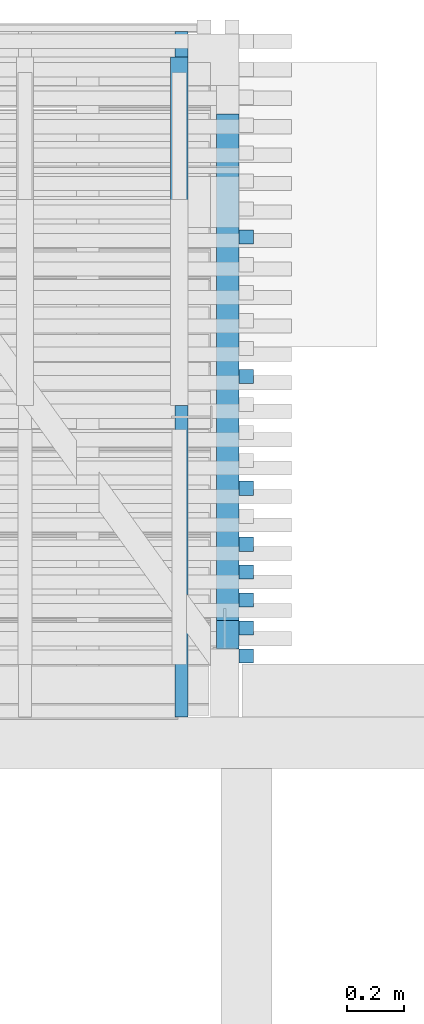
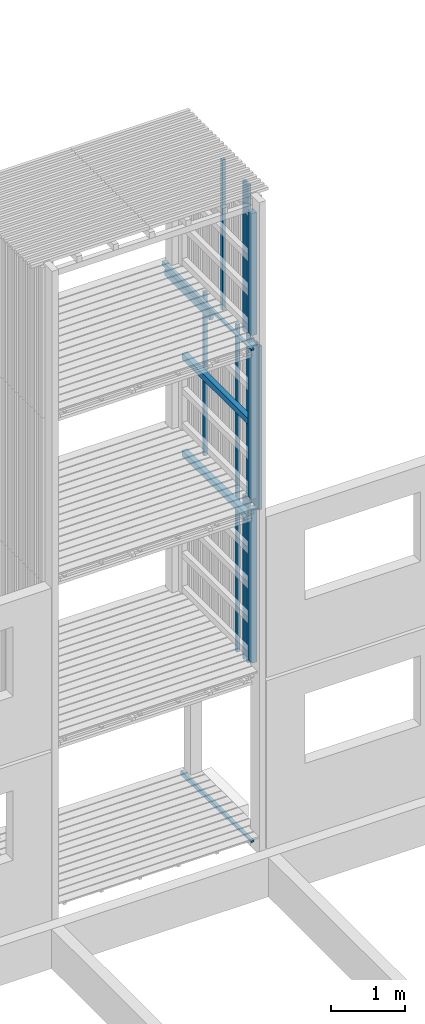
# One storey, part 53 of 182: 20 beams.
"""IFC2X3 building model written with IfcOpenShell, lengths in metres."""

from ifc_helpers import new_model, si_unit, frame, origin, place, context, project, spatial, faceted_brep, element, save


model = new_model("IFC2X3")

# Units and contexts
model_context = context("Model", 3, precision=1e-06, world=origin())
ifc_project = project(units=[si_unit("LENGTHUNIT", "METRE"), si_unit("PLANEANGLEUNIT", "RADIAN")], contexts=[model_context])

# Site, building, storey
site = spatial("IfcSite", under=ifc_project, CompositionType="ELEMENT")
building = spatial("IfcBuilding", under=site, CompositionType="ELEMENT")
storey = spatial("IfcBuildingStorey", under=building, Name="vs", CompositionType="ELEMENT", Elevation=-0.85)

# Beams
placement = place(None, origin())
beam_1_placement = place(placement, frame((16.451697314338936, 10.4700776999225, 8.084400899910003), z_axis=(0.0, 0.0, 1.0), x_axis=(0.0, 1.0, 0.0)))
element("IfcBeam", 1, at=beam_1_placement, inside=storey, Name="Calage", context=model_context, shape_type="Brep", body=[
    faceted_brep([(2.410000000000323, -0.022499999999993, -0.035599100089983), (0.0, -0.022499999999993, 0.012600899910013), (0.0, 0.022500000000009, 0.012600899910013), (2.410000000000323, 0.022500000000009, -0.035599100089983), (0.0, 0.022500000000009, 0.035599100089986), (0.0, 0.022500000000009, 0.012600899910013), (0.0, -0.022499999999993, 0.012600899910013), (0.0, -0.022499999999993, 0.035599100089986), (2.410000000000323, 0.022500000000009, -0.035599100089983), (0.0, 0.022500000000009, 0.012600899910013), (0.0, 0.022500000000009, 0.035599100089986), (2.410000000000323, 0.022500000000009, 0.035599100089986), (2.410000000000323, -0.022499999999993, 0.035599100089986), (0.0, -0.022499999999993, 0.035599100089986), (0.0, -0.022499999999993, 0.012600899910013), (2.410000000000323, -0.022499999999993, -0.035599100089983), (2.410000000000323, 0.022500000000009, 0.035599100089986), (0.0, 0.022500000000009, 0.035599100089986), (0.0, -0.022499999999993, 0.035599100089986), (2.410000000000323, -0.022499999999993, 0.035599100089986), (2.410000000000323, 0.022500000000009, -0.035599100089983), (2.410000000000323, 0.022500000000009, 0.035599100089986), (2.410000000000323, -0.022499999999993, 0.035599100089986), (2.410000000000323, -0.022499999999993, -0.035599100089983)], [[[0, 1, 2, 3]], [[4, 5, 6, 7]], [[8, 9, 10, 11]], [[12, 13, 14, 15]], [[16, 17, 18, 19]], [[20, 21, 22, 23]]]),
])
beam_2_placement = place(placement, frame((16.614197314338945, 10.810077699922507, 6.672499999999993), z_axis=(0.0, 0.0, 1.0), x_axis=(0.0, 1.0, 0.0)))
element("IfcBeam", 2, at=beam_2_placement, inside=storey, Name="Support bardage", context=model_context, shape_type="Brep", body=[
    faceted_brep([(1.779999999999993, -0.039999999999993, 0.050000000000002), (1.779999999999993, -0.039999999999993, -0.05), (1.779999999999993, 0.04000000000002, -0.05), (1.779999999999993, 0.04000000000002, 0.050000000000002), (-4e-15, -0.039999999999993, -0.05), (1.779999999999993, -0.039999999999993, -0.05), (1.779999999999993, -0.039999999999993, 0.050000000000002), (-4e-15, -0.039999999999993, 0.050000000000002), (-4e-15, 0.04000000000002, -0.05), (1.779999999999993, 0.04000000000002, -0.05), (1.779999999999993, -0.039999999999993, -0.05), (-4e-15, -0.039999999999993, -0.05), (-4e-15, 0.04000000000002, 0.050000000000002), (1.779999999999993, 0.04000000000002, 0.050000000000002), (1.779999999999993, 0.04000000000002, -0.05), (-4e-15, 0.04000000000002, -0.05), (-4e-15, -0.039999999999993, 0.050000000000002), (1.779999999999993, -0.039999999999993, 0.050000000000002), (1.779999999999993, 0.04000000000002, 0.050000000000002), (-4e-15, 0.04000000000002, 0.050000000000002), (-4e-15, -0.039999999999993, -0.05), (-4e-15, -0.039999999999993, 0.050000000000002), (-4e-15, 0.04000000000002, 0.050000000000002), (-4e-15, 0.04000000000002, -0.05)], [[[0, 1, 2, 3]], [[4, 5, 6, 7]], [[8, 9, 10, 11]], [[12, 13, 14, 15]], [[16, 17, 18, 19]], [[20, 21, 22, 23]]]),
])
beam_3_placement = place(placement, frame((16.67919731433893, 11.666895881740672, 7.974999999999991), z_axis=(-1.0, 0.0, 0.0), x_axis=(0.0, 0.0, 1.0)))
element("IfcBeam", 3, at=beam_3_placement, inside=storey, Name="Bardage", context=model_context, shape_type="Brep", body=[
    faceted_brep([(2.479999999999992, -0.025000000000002, 0.024999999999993), (2.479999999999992, -0.025000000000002, -0.025000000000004), (2.479999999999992, 0.024999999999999, -0.025000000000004), (2.479999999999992, 0.024999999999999, 0.024999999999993), (0.0, 0.024999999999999, 0.024999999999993), (0.0, -0.025000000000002, 0.024999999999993), (2.479999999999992, -0.025000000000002, 0.024999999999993), (2.479999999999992, 0.024999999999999, 0.024999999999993), (0.0, -0.025000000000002, 0.024999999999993), (0.0, 0.024999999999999, 0.024999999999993), (0.0, 0.024999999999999, -0.025000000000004), (0.0, -0.025000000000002, -0.025000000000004), (0.0, 0.024999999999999, -0.025000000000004), (0.0, 0.024999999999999, 0.024999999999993), (2.479999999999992, 0.024999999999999, 0.024999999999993), (2.479999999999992, 0.024999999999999, -0.025000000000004), (0.0, -0.025000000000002, -0.025000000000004), (0.0, 0.024999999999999, -0.025000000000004), (2.479999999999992, 0.024999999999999, -0.025000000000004), (2.479999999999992, -0.025000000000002, -0.025000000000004), (2.479999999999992, -0.025000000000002, 0.024999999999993), (0.0, -0.025000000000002, 0.024999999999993), (0.0, -0.025000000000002, -0.025000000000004), (2.479999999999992, -0.025000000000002, -0.025000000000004)], [[[0, 1, 2, 3]], [[4, 5, 6, 7]], [[8, 9, 10, 11]], [[12, 13, 14, 15]], [[16, 17, 18, 19]], [[20, 21, 22, 23]]]),
])
beam_4_placement = place(placement, frame((16.444197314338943, 11.565077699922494, 8.00424999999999), z_axis=(0.0, 0.0, 1.0), x_axis=(-1.2e-14, 1.0, 0.0)))
element("IfcBeam", 4, at=beam_4_placement, inside=storey, Name="Solive", context=model_context, shape_type="Brep", body=[
    faceted_brep([(-1e-15, -0.029999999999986, 0.061850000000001), (-1e-15, -0.029999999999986, -0.061849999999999), (1.225000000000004, -0.03, -0.061849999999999), (1.225000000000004, -0.03, 0.037349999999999), (-1e-15, -0.029999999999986, -0.061849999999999), (-1e-15, -0.029999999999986, 0.061850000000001), (0.0, 0.030000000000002, 0.061849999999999), (0.0, 0.030000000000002, -0.061849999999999), (1.225000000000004, -0.03, -0.061849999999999), (-1e-15, -0.029999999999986, -0.061849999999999), (0.0, 0.030000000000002, -0.061849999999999), (1.225000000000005, 0.029999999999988, -0.061849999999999), (1.225000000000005, 0.029999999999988, 0.037349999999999), (1.225000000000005, 0.029999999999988, -0.061849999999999), (0.0, 0.030000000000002, -0.061849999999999), (0.0, 0.030000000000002, 0.061849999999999), (1.225000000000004, -0.03, 0.037349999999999), (1.225000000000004, -0.03, -0.061849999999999), (1.225000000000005, 0.029999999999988, -0.061849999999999), (1.225000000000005, 0.029999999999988, 0.037349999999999), (1.225000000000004, -0.03, 0.037349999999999), (1.225000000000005, 0.029999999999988, 0.037349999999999), (0.0, 0.030000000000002, 0.061849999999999), (-1e-15, -0.029999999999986, 0.061850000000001)], [[[0, 1, 2, 3]], [[4, 5, 6, 7]], [[8, 9, 10, 11]], [[12, 13, 14, 15]], [[16, 17, 18, 19]], [[20, 21, 22, 23]]]),
])
beam_5_placement = place(placement, frame((16.67919731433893, 12.157804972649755, 5.274999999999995), z_axis=(-1.0, 0.0, 0.0), x_axis=(0.0, 0.0, 1.0)))
element("IfcBeam", 5, at=beam_5_placement, inside=storey, Name="Bardage", context=model_context, shape_type="Brep", body=[
    faceted_brep([(1e-15, -0.024999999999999, 0.024999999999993), (1e-15, 0.024999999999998, 0.024999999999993), (1e-15, 0.024999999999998, -0.025000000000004), (1e-15, -0.024999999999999, -0.025000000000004), (2.699999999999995, -0.024999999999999, -0.025000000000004), (2.699999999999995, 0.025000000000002, -0.025000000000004), (2.699999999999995, 0.025000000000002, 0.024999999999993), (2.699999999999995, -0.024999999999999, 0.024999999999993), (1e-15, -0.024999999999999, 0.024999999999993), (1e-15, -0.024999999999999, -0.025000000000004), (2.699999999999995, -0.024999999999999, -0.025000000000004), (2.699999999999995, -0.024999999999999, 0.024999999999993), (2.699999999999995, -0.024999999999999, -0.025000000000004), (1e-15, -0.024999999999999, -0.025000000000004), (1e-15, 0.024999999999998, -0.025000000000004), (2.699999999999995, 0.025000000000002, -0.025000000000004), (2.699999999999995, 0.025000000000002, -0.025000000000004), (1e-15, 0.024999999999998, -0.025000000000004), (1e-15, 0.024999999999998, 0.024999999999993), (2.699999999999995, 0.025000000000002, 0.024999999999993), (2.699999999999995, 0.025000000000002, 0.024999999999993), (1e-15, 0.024999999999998, 0.024999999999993), (1e-15, -0.024999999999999, 0.024999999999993), (2.699999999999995, -0.024999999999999, 0.024999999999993)], [[[0, 1, 2, 3]], [[4, 5, 6, 7]], [[8, 9, 10, 11]], [[12, 13, 14, 15]], [[16, 17, 18, 19]], [[20, 21, 22, 23]]]),
])
beam_6_placement = place(placement, frame((16.614197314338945, 10.810077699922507, 5.074999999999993), z_axis=(0.0, 0.0, 1.0), x_axis=(0.0, 1.0, 0.0)))
element("IfcBeam", 6, at=beam_6_placement, inside=storey, Name="Support bardage", context=model_context, shape_type="Brep", body=[
    faceted_brep([(1.779999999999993, -0.039999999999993, 0.050000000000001), (1.779999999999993, -0.039999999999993, -0.050000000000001), (1.779999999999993, 0.04000000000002, -0.050000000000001), (1.779999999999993, 0.04000000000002, 0.050000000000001), (-4e-15, -0.039999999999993, -0.050000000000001), (1.779999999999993, -0.039999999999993, -0.050000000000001), (1.779999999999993, -0.039999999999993, 0.050000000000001), (-4e-15, -0.039999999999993, 0.050000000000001), (-4e-15, 0.04000000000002, -0.050000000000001), (1.779999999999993, 0.04000000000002, -0.050000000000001), (1.779999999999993, -0.039999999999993, -0.050000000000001), (-4e-15, -0.039999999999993, -0.050000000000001), (-4e-15, 0.04000000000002, 0.050000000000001), (1.779999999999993, 0.04000000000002, 0.050000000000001), (1.779999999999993, 0.04000000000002, -0.050000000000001), (-4e-15, 0.04000000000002, -0.050000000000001), (-4e-15, -0.039999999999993, 0.050000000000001), (1.779999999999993, -0.039999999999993, 0.050000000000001), (1.779999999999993, 0.04000000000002, 0.050000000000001), (-4e-15, 0.04000000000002, 0.050000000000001), (-4e-15, -0.039999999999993, -0.050000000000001), (-4e-15, -0.039999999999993, 0.050000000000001), (-4e-15, 0.04000000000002, 0.050000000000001), (-4e-15, 0.04000000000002, -0.050000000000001)], [[[0, 1, 2, 3]], [[4, 5, 6, 7]], [[8, 9, 10, 11]], [[12, 13, 14, 15]], [[16, 17, 18, 19]], [[20, 21, 22, 23]]]),
])
beam_7_placement = place(placement, frame((16.614197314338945, 10.760077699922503, 5.446999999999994), z_axis=(0.0, 1.0, 0.0), x_axis=(0.0, 0.0, 1.0)))
element("IfcBeam", 7, at=beam_7_placement, inside=storey, Name="Support bardage", context=model_context, shape_type="Brep", body=[
    faceted_brep([(2.527999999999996, -0.04000000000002, -0.050000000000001), (2.527999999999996, 0.039999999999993, -0.050000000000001), (2.527999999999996, 0.039999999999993, 0.05), (2.527999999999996, -0.04000000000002, 0.05), (-1e-15, -0.04000000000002, 0.05), (-1e-15, -0.04000000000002, -0.050000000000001), (2.527999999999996, -0.04000000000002, -0.050000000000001), (2.527999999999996, -0.04000000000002, 0.05), (-1e-15, -0.04000000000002, -0.050000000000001), (-1e-15, -0.04000000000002, 0.05), (-1e-15, 0.039999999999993, 0.05), (-1e-15, 0.039999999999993, -0.050000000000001), (2.527999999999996, -0.04000000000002, -0.050000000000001), (-1e-15, -0.04000000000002, -0.050000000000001), (-1e-15, 0.039999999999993, -0.050000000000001), (2.527999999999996, 0.039999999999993, -0.050000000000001), (2.527999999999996, 0.039999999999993, -0.050000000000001), (-1e-15, 0.039999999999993, -0.050000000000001), (-1e-15, 0.039999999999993, 0.05), (2.527999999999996, 0.039999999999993, 0.05), (2.527999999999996, 0.039999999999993, 0.05), (-1e-15, 0.039999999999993, 0.05), (-1e-15, -0.04000000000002, 0.05), (2.527999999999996, -0.04000000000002, 0.05)], [[[0, 1, 2, 3]], [[4, 5, 6, 7]], [[8, 9, 10, 11]], [[12, 13, 14, 15]], [[16, 17, 18, 19]], [[20, 21, 22, 23]]]),
])
beam_8_placement = place(placement, frame((16.67919731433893, 11.274168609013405, 2.575000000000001), z_axis=(-1.0, 0.0, 0.0), x_axis=(0.0, 0.0, 1.0)))
element("IfcBeam", 8, at=beam_8_placement, inside=storey, Name="Bardage", context=model_context, shape_type="Brep", body=[
    faceted_brep([(0.0, -0.025000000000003, 0.024999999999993), (0.0, 0.024999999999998, 0.024999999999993), (0.0, 0.024999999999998, -0.025000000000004), (0.0, -0.025000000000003, -0.025000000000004), (2.699961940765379, 0.024999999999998, -0.025000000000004), (2.699961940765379, 0.024999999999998, 0.024999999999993), (2.699961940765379, -0.025000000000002, 0.024999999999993), (2.699961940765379, -0.025000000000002, -0.025000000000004), (0.0, -0.025000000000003, -0.025000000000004), (0.0, 0.024999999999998, -0.025000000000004), (2.699961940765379, 0.024999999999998, -0.025000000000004), (2.699961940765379, -0.025000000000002, -0.025000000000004), (2.699961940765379, 0.024999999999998, -0.025000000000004), (0.0, 0.024999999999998, -0.025000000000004), (0.0, 0.024999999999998, 0.024999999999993), (2.699961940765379, 0.024999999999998, 0.024999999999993), (2.699961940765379, 0.024999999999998, 0.024999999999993), (0.0, 0.024999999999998, 0.024999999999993), (0.0, -0.025000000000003, 0.024999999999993), (2.699961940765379, -0.025000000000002, 0.024999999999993), (2.699961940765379, -0.025000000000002, 0.024999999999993), (0.0, -0.025000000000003, 0.024999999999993), (0.0, -0.025000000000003, -0.025000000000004), (2.699961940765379, -0.025000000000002, -0.025000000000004)], [[[0, 1, 2, 3]], [[4, 5, 6, 7]], [[8, 9, 10, 11]], [[12, 13, 14, 15]], [[16, 17, 18, 19]], [[20, 21, 22, 23]]]),
])
beam_9_placement = place(placement, frame((16.67919731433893, 11.07780497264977, 7.974999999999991), z_axis=(-1.0, 0.0, 0.0), x_axis=(0.0, 0.0, 1.0)))
element("IfcBeam", 9, at=beam_9_placement, inside=storey, Name="Bardage", context=model_context, shape_type="Brep", body=[
    faceted_brep([(2.479999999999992, -0.024999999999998, 0.024999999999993), (2.479999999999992, -0.024999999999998, -0.025000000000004), (2.479999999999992, 0.024999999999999, -0.025000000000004), (2.479999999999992, 0.024999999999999, 0.024999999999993), (0.0, 0.024999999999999, 0.024999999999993), (0.0, -0.024999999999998, 0.024999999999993), (2.479999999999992, -0.024999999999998, 0.024999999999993), (2.479999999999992, 0.024999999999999, 0.024999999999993), (0.0, -0.024999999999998, 0.024999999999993), (0.0, 0.024999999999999, 0.024999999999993), (0.0, 0.024999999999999, -0.025000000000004), (0.0, -0.024999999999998, -0.025000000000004), (0.0, 0.024999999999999, -0.025000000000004), (0.0, 0.024999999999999, 0.024999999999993), (2.479999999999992, 0.024999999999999, 0.024999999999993), (2.479999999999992, 0.024999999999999, -0.025000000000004), (0.0, -0.024999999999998, -0.025000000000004), (0.0, 0.024999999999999, -0.025000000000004), (2.479999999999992, 0.024999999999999, -0.025000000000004), (2.479999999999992, -0.024999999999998, -0.025000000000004), (2.479999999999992, -0.024999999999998, 0.024999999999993), (0.0, -0.024999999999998, 0.024999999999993), (0.0, -0.024999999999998, -0.025000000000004), (2.479999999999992, -0.024999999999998, -0.025000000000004)], [[[0, 1, 2, 3]], [[4, 5, 6, 7]], [[8, 9, 10, 11]], [[12, 13, 14, 15]], [[16, 17, 18, 19]], [[20, 21, 22, 23]]]),
])
beam_10_placement = place(placement, frame((16.451697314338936, 10.4700776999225, -0.015599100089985), z_axis=(0.0, 0.0, 1.0), x_axis=(0.0, 1.0, 0.0)))
element("IfcBeam", 10, at=beam_10_placement, inside=storey, Name="Calage", context=model_context, shape_type="Brep", body=[
    faceted_brep([(1.91000000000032, -0.022499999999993, -0.035599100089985), (0.0, -0.022499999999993, 0.002600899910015), (0.0, 0.022500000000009, 0.002600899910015), (1.91000000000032, 0.022500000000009, -0.035599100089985), (0.0, -0.022499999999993, 0.035599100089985), (0.0, 0.022500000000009, 0.035599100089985), (0.0, 0.022500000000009, 0.002600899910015), (0.0, -0.022499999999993, 0.002600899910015), (0.0, 0.022500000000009, 0.035599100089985), (0.0, -0.022499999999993, 0.035599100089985), (1.91000000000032, -0.022499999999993, 0.035599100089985), (1.91000000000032, 0.022500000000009, 0.035599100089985), (1.91000000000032, -0.022499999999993, 0.035599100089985), (0.0, -0.022499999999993, 0.035599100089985), (0.0, -0.022499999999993, 0.002600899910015), (1.91000000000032, -0.022499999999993, -0.035599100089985), (1.91000000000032, 0.022500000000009, 0.035599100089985), (1.91000000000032, -0.022499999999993, 0.035599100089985), (1.91000000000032, -0.022499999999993, -0.035599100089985), (1.91000000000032, 0.022500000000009, -0.035599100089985), (0.0, 0.022500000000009, 0.002600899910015), (0.0, 0.022500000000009, 0.035599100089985), (1.91000000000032, 0.022500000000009, 0.035599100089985), (1.91000000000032, 0.022500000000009, -0.035599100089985)], [[[0, 1, 2, 3]], [[4, 5, 6, 7]], [[8, 9, 10, 11]], [[12, 13, 14, 15]], [[16, 17, 18, 19]], [[20, 21, 22, 23]]]),
])
beam_11_placement = place(placement, frame((16.67919731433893, 11.07780497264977, 2.575000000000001), z_axis=(-1.0, 0.0, 0.0), x_axis=(0.0, 0.0, 1.0)))
element("IfcBeam", 11, at=beam_11_placement, inside=storey, Name="Bardage", context=model_context, shape_type="Brep", body=[
    faceted_brep([(0.0, -0.024999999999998, 0.024999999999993), (0.0, 0.024999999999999, 0.024999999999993), (0.0, 0.024999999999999, -0.025000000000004), (0.0, -0.024999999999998, -0.025000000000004), (2.699961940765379, 0.024999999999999, -0.025000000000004), (2.699961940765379, 0.024999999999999, 0.024999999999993), (2.699961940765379, -0.024999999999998, 0.024999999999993), (2.699961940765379, -0.024999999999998, -0.025000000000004), (0.0, -0.024999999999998, -0.025000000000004), (0.0, 0.024999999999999, -0.025000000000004), (2.699961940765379, 0.024999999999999, -0.025000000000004), (2.699961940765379, -0.024999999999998, -0.025000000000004), (2.699961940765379, 0.024999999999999, -0.025000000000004), (0.0, 0.024999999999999, -0.025000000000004), (0.0, 0.024999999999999, 0.024999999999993), (2.699961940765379, 0.024999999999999, 0.024999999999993), (2.699961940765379, 0.024999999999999, 0.024999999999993), (0.0, 0.024999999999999, 0.024999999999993), (0.0, -0.024999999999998, 0.024999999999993), (2.699961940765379, -0.024999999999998, 0.024999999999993), (2.699961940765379, -0.024999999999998, 0.024999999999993), (0.0, -0.024999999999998, 0.024999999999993), (0.0, -0.024999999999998, -0.025000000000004), (2.699961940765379, -0.024999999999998, -0.025000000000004)], [[[0, 1, 2, 3]], [[4, 5, 6, 7]], [[8, 9, 10, 11]], [[12, 13, 14, 15]], [[16, 17, 18, 19]], [[20, 21, 22, 23]]]),
])
beam_12_placement = place(placement, frame((16.614197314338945, 10.760077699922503, 2.746999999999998), z_axis=(0.0, 1.0, 0.0), x_axis=(0.0, 0.0, 1.0)))
element("IfcBeam", 12, at=beam_12_placement, inside=storey, Name="Support bardage", context=model_context, shape_type="Brep", body=[
    faceted_brep([(2.527961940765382, 0.039999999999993, -0.050000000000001), (2.527961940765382, 0.039999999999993, 0.05), (2.527961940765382, -0.04000000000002, 0.05), (2.527961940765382, -0.04000000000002, -0.050000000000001), (0.0, -0.04000000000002, -0.050000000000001), (0.0, 0.039999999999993, -0.050000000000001), (2.527961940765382, 0.039999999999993, -0.050000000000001), (2.527961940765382, -0.04000000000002, -0.050000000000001), (0.0, 0.039999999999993, -0.050000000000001), (0.0, -0.04000000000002, -0.050000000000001), (0.0, -0.04000000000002, 0.05), (0.0, 0.039999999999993, 0.05), (2.527961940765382, 0.039999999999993, -0.050000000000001), (0.0, 0.039999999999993, -0.050000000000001), (0.0, 0.039999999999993, 0.05), (2.527961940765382, 0.039999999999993, 0.05), (2.527961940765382, 0.039999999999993, 0.05), (0.0, 0.039999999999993, 0.05), (0.0, -0.04000000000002, 0.05), (2.527961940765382, -0.04000000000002, 0.05), (2.527961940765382, -0.04000000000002, 0.05), (0.0, -0.04000000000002, 0.05), (0.0, -0.04000000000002, -0.050000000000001), (2.527961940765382, -0.04000000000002, -0.050000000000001)], [[[0, 1, 2, 3]], [[4, 5, 6, 7]], [[8, 9, 10, 11]], [[12, 13, 14, 15]], [[16, 17, 18, 19]], [[20, 21, 22, 23]]]),
])
beam_13_placement = place(placement, frame((16.67919731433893, 10.979623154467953, 5.274999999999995), z_axis=(-1.0, 0.0, 0.0), x_axis=(0.0, 1e-15, 1.0)))
element("IfcBeam", 13, at=beam_13_placement, inside=storey, Name="Bardage", context=model_context, shape_type="Brep", body=[
    faceted_brep([(1e-15, -0.024999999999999, 0.024999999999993), (1e-15, 0.025000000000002, 0.024999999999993), (1e-15, 0.025000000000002, -0.025000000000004), (1e-15, -0.024999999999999, -0.025000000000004), (2.699999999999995, -0.025000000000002, -0.025000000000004), (2.699999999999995, 0.024999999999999, -0.025000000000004), (2.699999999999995, 0.024999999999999, 0.024999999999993), (2.699999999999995, -0.025000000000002, 0.024999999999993), (1e-15, -0.024999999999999, 0.024999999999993), (1e-15, -0.024999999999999, -0.025000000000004), (2.699999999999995, -0.025000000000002, -0.025000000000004), (2.699999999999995, -0.025000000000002, 0.024999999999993), (2.699999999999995, -0.025000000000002, -0.025000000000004), (1e-15, -0.024999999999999, -0.025000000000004), (1e-15, 0.025000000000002, -0.025000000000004), (2.699999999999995, 0.024999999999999, -0.025000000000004), (2.699999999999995, 0.024999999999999, -0.025000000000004), (1e-15, 0.025000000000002, -0.025000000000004), (1e-15, 0.025000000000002, 0.024999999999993), (2.699999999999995, 0.024999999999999, 0.024999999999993), (2.699999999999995, 0.024999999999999, 0.024999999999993), (1e-15, 0.025000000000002, 0.024999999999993), (1e-15, -0.024999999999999, 0.024999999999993), (2.699999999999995, -0.025000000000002, 0.024999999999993)], [[[0, 1, 2, 3]], [[4, 5, 6, 7]], [[8, 9, 10, 11]], [[12, 13, 14, 15]], [[16, 17, 18, 19]], [[20, 21, 22, 23]]]),
])
beam_14_placement = place(placement, frame((16.67919731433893, 11.274168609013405, 5.274999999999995), z_axis=(-1.0, 0.0, 0.0), x_axis=(0.0, 0.0, 1.0)))
element("IfcBeam", 14, at=beam_14_placement, inside=storey, Name="Bardage", context=model_context, shape_type="Brep", body=[
    faceted_brep([(1e-15, -0.025000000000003, 0.024999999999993), (1e-15, 0.024999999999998, 0.024999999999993), (1e-15, 0.024999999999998, -0.025000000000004), (1e-15, -0.025000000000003, -0.025000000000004), (2.699999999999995, -0.025000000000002, -0.025000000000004), (2.699999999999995, 0.024999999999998, -0.025000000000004), (2.699999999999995, 0.024999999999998, 0.024999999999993), (2.699999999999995, -0.025000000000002, 0.024999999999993), (1e-15, -0.025000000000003, 0.024999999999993), (1e-15, -0.025000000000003, -0.025000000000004), (2.699999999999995, -0.025000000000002, -0.025000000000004), (2.699999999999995, -0.025000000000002, 0.024999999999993), (2.699999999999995, -0.025000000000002, -0.025000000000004), (1e-15, -0.025000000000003, -0.025000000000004), (1e-15, 0.024999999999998, -0.025000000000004), (2.699999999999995, 0.024999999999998, -0.025000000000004), (2.699999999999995, 0.024999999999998, -0.025000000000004), (1e-15, 0.024999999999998, -0.025000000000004), (1e-15, 0.024999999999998, 0.024999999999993), (2.699999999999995, 0.024999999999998, 0.024999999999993), (2.699999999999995, 0.024999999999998, 0.024999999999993), (1e-15, 0.024999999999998, 0.024999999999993), (1e-15, -0.025000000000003, 0.024999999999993), (2.699999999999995, -0.025000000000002, 0.024999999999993)], [[[0, 1, 2, 3]], [[4, 5, 6, 7]], [[8, 9, 10, 11]], [[12, 13, 14, 15]], [[16, 17, 18, 19]], [[20, 21, 22, 23]]]),
])
beam_15_placement = place(placement, frame((16.67919731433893, 10.78325951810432, 5.274999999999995), z_axis=(-1.0, 0.0, 0.0), x_axis=(0.0, 0.0, 1.0)))
element("IfcBeam", 15, at=beam_15_placement, inside=storey, Name="Bardage", context=model_context, shape_type="Brep", body=[
    faceted_brep([(1e-15, -0.025000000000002, 0.024999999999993), (1e-15, 0.024999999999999, 0.024999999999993), (1e-15, 0.024999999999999, -0.025000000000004), (1e-15, -0.025000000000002, -0.025000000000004), (2.699999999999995, -0.025000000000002, -0.025000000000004), (2.699999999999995, 0.024999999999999, -0.025000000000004), (2.699999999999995, 0.024999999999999, 0.024999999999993), (2.699999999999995, -0.025000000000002, 0.024999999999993), (1e-15, -0.025000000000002, 0.024999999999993), (1e-15, -0.025000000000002, -0.025000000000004), (2.699999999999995, -0.025000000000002, -0.025000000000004), (2.699999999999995, -0.025000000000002, 0.024999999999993), (2.699999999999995, -0.025000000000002, -0.025000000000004), (1e-15, -0.025000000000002, -0.025000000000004), (1e-15, 0.024999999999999, -0.025000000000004), (2.699999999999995, 0.024999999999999, -0.025000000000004), (2.699999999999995, 0.024999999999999, -0.025000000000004), (1e-15, 0.024999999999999, -0.025000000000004), (1e-15, 0.024999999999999, 0.024999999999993), (2.699999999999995, 0.024999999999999, 0.024999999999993), (2.699999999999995, 0.024999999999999, 0.024999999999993), (1e-15, 0.024999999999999, 0.024999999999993), (1e-15, -0.025000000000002, 0.024999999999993), (2.699999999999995, -0.025000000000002, 0.024999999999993)], [[[0, 1, 2, 3]], [[4, 5, 6, 7]], [[8, 9, 10, 11]], [[12, 13, 14, 15]], [[16, 17, 18, 19]], [[20, 21, 22, 23]]]),
])
beam_16_placement = place(placement, frame((16.614197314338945, 10.760077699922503, 8.14699999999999), z_axis=(0.0, 1.0, 0.0), x_axis=(0.0, 0.0, 1.0)))
element("IfcBeam", 16, at=beam_16_placement, inside=storey, Name="Support bardage", context=model_context, shape_type="Brep", body=[
    faceted_brep([(2.017999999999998, 0.039999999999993, -0.050000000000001), (2.017999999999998, 0.039999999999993, 0.05), (2.017999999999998, -0.04000000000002, 0.05), (2.017999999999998, -0.04000000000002, -0.050000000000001), (1e-15, -0.04000000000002, -0.050000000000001), (1e-15, -0.04000000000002, 0.05), (1e-15, 0.039999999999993, 0.05), (1e-15, 0.039999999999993, -0.050000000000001), (1e-15, -0.04000000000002, -0.050000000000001), (1e-15, 0.039999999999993, -0.050000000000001), (2.017999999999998, 0.039999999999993, -0.050000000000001), (2.017999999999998, -0.04000000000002, -0.050000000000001), (1e-15, -0.04000000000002, 0.05), (1e-15, -0.04000000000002, -0.050000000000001), (2.017999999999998, -0.04000000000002, -0.050000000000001), (2.017999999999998, -0.04000000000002, 0.05), (1e-15, 0.039999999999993, 0.05), (1e-15, -0.04000000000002, 0.05), (2.017999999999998, -0.04000000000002, 0.05), (2.017999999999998, 0.039999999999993, 0.05), (1e-15, 0.039999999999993, -0.050000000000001), (1e-15, 0.039999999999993, 0.05), (2.017999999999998, 0.039999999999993, 0.05), (2.017999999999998, 0.039999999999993, -0.050000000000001)], [[[0, 1, 2, 3]], [[4, 5, 6, 7]], [[8, 9, 10, 11]], [[12, 13, 14, 15]], [[16, 17, 18, 19]], [[20, 21, 22, 23]]]),
])
beam_17_placement = place(placement, frame((16.67919731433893, 10.979623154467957, 2.575000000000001), z_axis=(-1.0, 0.0, 0.0), x_axis=(0.0, 0.0, 1.0)))
element("IfcBeam", 17, at=beam_17_placement, inside=storey, Name="Bardage", context=model_context, shape_type="Brep", body=[
    faceted_brep([(0.0, -0.025000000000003, 0.024999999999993), (0.0, 0.024999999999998, 0.024999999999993), (0.0, 0.024999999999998, -0.025000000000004), (0.0, -0.025000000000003, -0.025000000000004), (2.699961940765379, 0.024999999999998, -0.025000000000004), (2.699961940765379, 0.024999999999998, 0.024999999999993), (2.699961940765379, -0.025000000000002, 0.024999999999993), (2.699961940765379, -0.025000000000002, -0.025000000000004), (0.0, -0.025000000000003, -0.025000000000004), (0.0, 0.024999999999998, -0.025000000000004), (2.699961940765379, 0.024999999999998, -0.025000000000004), (2.699961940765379, -0.025000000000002, -0.025000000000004), (2.699961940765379, 0.024999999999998, -0.025000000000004), (0.0, 0.024999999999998, -0.025000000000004), (0.0, 0.024999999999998, 0.024999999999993), (2.699961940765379, 0.024999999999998, 0.024999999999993), (2.699961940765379, 0.024999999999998, 0.024999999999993), (0.0, 0.024999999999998, 0.024999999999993), (0.0, -0.025000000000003, 0.024999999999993), (2.699961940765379, -0.025000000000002, 0.024999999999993), (2.699961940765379, -0.025000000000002, 0.024999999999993), (0.0, -0.025000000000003, 0.024999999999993), (0.0, -0.025000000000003, -0.025000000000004), (2.699961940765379, -0.025000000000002, -0.025000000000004)], [[[0, 1, 2, 3]], [[4, 5, 6, 7]], [[8, 9, 10, 11]], [[12, 13, 14, 15]], [[16, 17, 18, 19]], [[20, 21, 22, 23]]]),
])
beam_18_placement = place(placement, frame((16.67919731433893, 10.881441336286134, 5.274999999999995), z_axis=(-1.0, 0.0, 0.0), x_axis=(0.0, 0.0, 1.0)))
element("IfcBeam", 18, at=beam_18_placement, inside=storey, Name="Bardage", context=model_context, shape_type="Brep", body=[
    faceted_brep([(1e-15, -0.024999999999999, 0.024999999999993), (1e-15, 0.025000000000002, 0.024999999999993), (1e-15, 0.025000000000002, -0.025000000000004), (1e-15, -0.024999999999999, -0.025000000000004), (2.699999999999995, -0.024999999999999, -0.025000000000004), (2.699999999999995, 0.025000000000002, -0.025000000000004), (2.699999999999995, 0.025000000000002, 0.024999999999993), (2.699999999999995, -0.024999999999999, 0.024999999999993), (1e-15, -0.024999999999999, 0.024999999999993), (1e-15, -0.024999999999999, -0.025000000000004), (2.699999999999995, -0.024999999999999, -0.025000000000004), (2.699999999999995, -0.024999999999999, 0.024999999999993), (2.699999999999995, -0.024999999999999, -0.025000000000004), (1e-15, -0.024999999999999, -0.025000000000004), (1e-15, 0.025000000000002, -0.025000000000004), (2.699999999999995, 0.025000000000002, -0.025000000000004), (2.699999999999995, 0.025000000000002, -0.025000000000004), (1e-15, 0.025000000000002, -0.025000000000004), (1e-15, 0.025000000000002, 0.024999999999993), (2.699999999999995, 0.025000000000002, 0.024999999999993), (2.699999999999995, 0.025000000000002, 0.024999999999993), (1e-15, 0.025000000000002, 0.024999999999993), (1e-15, -0.024999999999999, 0.024999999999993), (2.699999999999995, -0.024999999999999, 0.024999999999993)], [[[0, 1, 2, 3]], [[4, 5, 6, 7]], [[8, 9, 10, 11]], [[12, 13, 14, 15]], [[16, 17, 18, 19]], [[20, 21, 22, 23]]]),
])
beam_19_placement = place(placement, frame((16.67919731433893, 10.979623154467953, 7.974999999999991), z_axis=(-1.0, 0.0, 0.0), x_axis=(0.0, 1e-15, 1.0)))
element("IfcBeam", 19, at=beam_19_placement, inside=storey, Name="Bardage", context=model_context, shape_type="Brep", body=[
    faceted_brep([(2.479999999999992, -0.025000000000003, 0.024999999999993), (2.479999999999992, -0.025000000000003, -0.025000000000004), (2.479999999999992, 0.024999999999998, -0.025000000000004), (2.479999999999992, 0.024999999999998, 0.024999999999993), (0.0, 0.025000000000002, 0.024999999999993), (0.0, -0.024999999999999, 0.024999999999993), (2.479999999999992, -0.025000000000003, 0.024999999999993), (2.479999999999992, 0.024999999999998, 0.024999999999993), (0.0, -0.024999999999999, 0.024999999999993), (0.0, 0.025000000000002, 0.024999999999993), (0.0, 0.025000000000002, -0.025000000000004), (0.0, -0.024999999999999, -0.025000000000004), (0.0, 0.025000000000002, -0.025000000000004), (0.0, 0.025000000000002, 0.024999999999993), (2.479999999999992, 0.024999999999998, 0.024999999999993), (2.479999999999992, 0.024999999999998, -0.025000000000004), (0.0, -0.024999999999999, -0.025000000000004), (0.0, 0.025000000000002, -0.025000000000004), (2.479999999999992, 0.024999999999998, -0.025000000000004), (2.479999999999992, -0.025000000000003, -0.025000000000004), (2.479999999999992, -0.025000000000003, 0.024999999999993), (0.0, -0.024999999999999, 0.024999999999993), (0.0, -0.024999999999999, -0.025000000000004), (2.479999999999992, -0.025000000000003, -0.025000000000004)], [[[0, 1, 2, 3]], [[4, 5, 6, 7]], [[8, 9, 10, 11]], [[12, 13, 14, 15]], [[16, 17, 18, 19]], [[20, 21, 22, 23]]]),
])
beam_20_placement = place(placement, frame((16.67919731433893, 10.685077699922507, 5.274999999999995), z_axis=(-1.0, 0.0, 0.0), x_axis=(0.0, 0.0, 1.0)))
element("IfcBeam", 20, at=beam_20_placement, inside=storey, Name="Bardage", context=model_context, shape_type="Brep", body=[
    faceted_brep([(1e-15, -0.025000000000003, 0.024999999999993), (1e-15, 0.024999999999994, 0.024999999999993), (1e-15, 0.024999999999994, -0.025000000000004), (1e-15, -0.025000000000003, -0.025000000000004), (2.699999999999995, -0.025000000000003, -0.025000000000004), (2.699999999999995, 0.024999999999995, -0.025000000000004), (2.699999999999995, 0.024999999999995, 0.024999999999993), (2.699999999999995, -0.025000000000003, 0.024999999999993), (1e-15, -0.025000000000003, 0.024999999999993), (1e-15, -0.025000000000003, -0.025000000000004), (2.699999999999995, -0.025000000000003, -0.025000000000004), (2.699999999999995, -0.025000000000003, 0.024999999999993), (2.699999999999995, -0.025000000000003, -0.025000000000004), (1e-15, -0.025000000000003, -0.025000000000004), (1e-15, 0.024999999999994, -0.025000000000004), (2.699999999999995, 0.024999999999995, -0.025000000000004), (2.699999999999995, 0.024999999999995, -0.025000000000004), (1e-15, 0.024999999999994, -0.025000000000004), (1e-15, 0.024999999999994, 0.024999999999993), (2.699999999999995, 0.024999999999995, 0.024999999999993), (2.699999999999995, 0.024999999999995, 0.024999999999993), (1e-15, 0.024999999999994, 0.024999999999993), (1e-15, -0.025000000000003, 0.024999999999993), (2.699999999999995, -0.025000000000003, 0.024999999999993)], [[[0, 1, 2, 3]], [[4, 5, 6, 7]], [[8, 9, 10, 11]], [[12, 13, 14, 15]], [[16, 17, 18, 19]], [[20, 21, 22, 23]]]),
])

save(model, "model.ifc")
